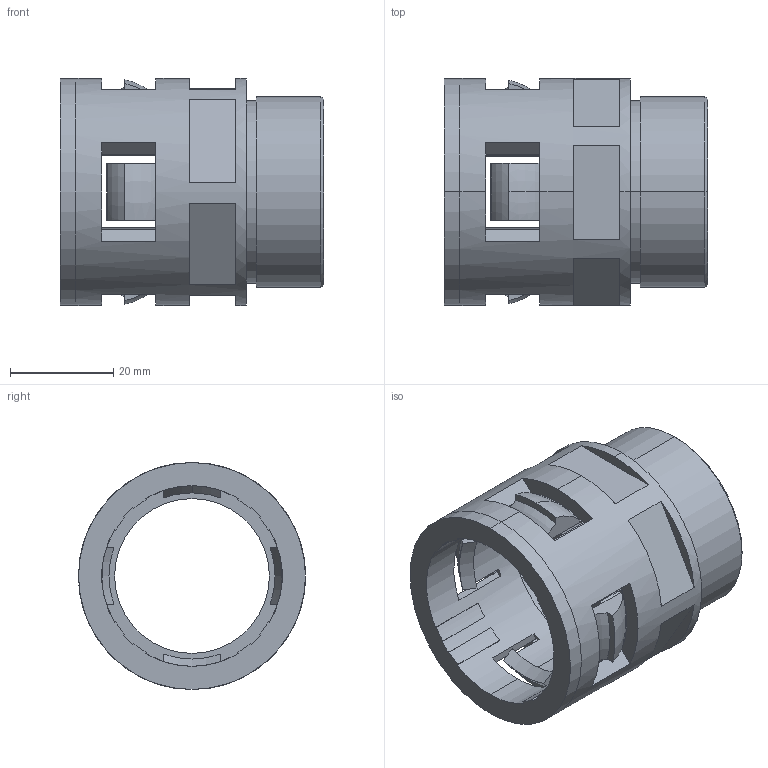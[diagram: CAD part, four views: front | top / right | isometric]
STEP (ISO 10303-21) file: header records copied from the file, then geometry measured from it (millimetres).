
FILE_DESCRIPTION (( 'STEP AP214' ), '1' );
FILE_NAME ('WQG-P29-AD34.5.STEP', '2017-02-08T06:58:47', ( '' ), ( '' ), 'SwSTEP 2.0', 'SolidWorks 2016', '' );
FILE_SCHEMA (( 'AUTOMOTIVE_DESIGN' ));
Length unit declared in the file: millimetre
Products named in the file (3): WQG-P29-AD34.5; NSK-AD34.5; WQG-P29-AD34.5-01
Assembly tree (2 placements, depth 2):
  WQG-P29-AD34.5
    WQG-P29-AD34.5-01
    NSK-AD34.5
Bounding box: 51 x 44 x 44 mm (x, y, z)
Volume: 20932.5 mm3; surface area: 19725.8 mm2
Topology: 2 solids, 2 shells, 162 faces, 458 edges, 300 vertices
Faces by surface type: plane 106, cylinder 32, torus 13, cone 11
Entity records: 5601 total; most frequent: CARTESIAN_POINT 1133, DIRECTION 953, ORIENTED_EDGE 916, EDGE_CURVE 458, AXIS2_PLACEMENT_3D 360, VERTEX_POINT 300, VECTOR 233, LINE 233
